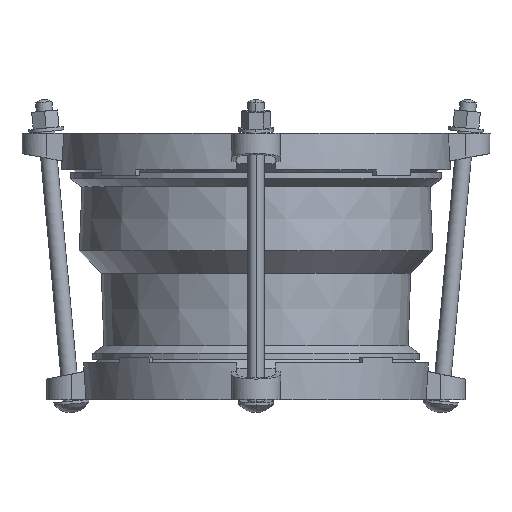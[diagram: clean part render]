
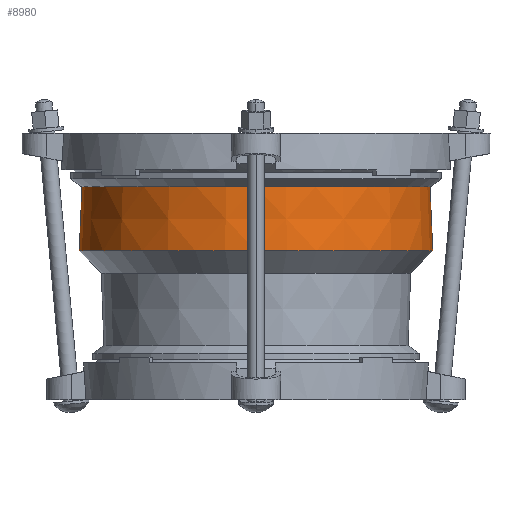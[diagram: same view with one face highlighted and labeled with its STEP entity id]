
A CAD part, left-side view. The second image highlights one B-rep face of the part: STEP entity #8980.
In plain terms, the highlighted conical face has half-angle 2.442 degrees and reference radius 128.351 mm.
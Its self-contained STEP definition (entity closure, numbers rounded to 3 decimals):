
#8575=CARTESIAN_POINT('',(0.,0.,-39.381));
#8576=DIRECTION('',(0.,0.,1.));
#8577=DIRECTION('',(0.,1.,0.));
#8578=AXIS2_PLACEMENT_3D('',#8575,#8576,#8577);
#8580=CARTESIAN_POINT('',(0.,0.,-86.272));
#8581=DIRECTION('',(0.,0.,1.));
#8582=DIRECTION('',(0.,1.,0.));
#8583=AXIS2_PLACEMENT_3D('',#8580,#8581,#8582);
#8585=DIRECTION('',(0.,-0.043,0.999));
#8586=VECTOR('',#8585,46.933);
#8587=CARTESIAN_POINT('',(0.,129.351,-86.272));
#8588=LINE('',#8587,#8586);
#8594=DIRECTION('',(0.,0.043,0.999));
#8595=VECTOR('',#8594,46.933);
#8596=CARTESIAN_POINT('',(0.,-129.351,
-86.272));
#8597=LINE('',#8596,#8595);
#8658=CARTESIAN_POINT('',(0.,129.351,-86.272));
#8659=VERTEX_POINT('',#8658);
#8660=CARTESIAN_POINT('',(0.,127.351,-39.381));
#8661=VERTEX_POINT('',#8660);
#8686=CARTESIAN_POINT('',(0.,-129.351,
-86.272));
#8687=VERTEX_POINT('',#8686);
#8688=CARTESIAN_POINT('',(0.,-127.351,
-39.381));
#8689=VERTEX_POINT('',#8688);
#8966=CARTESIAN_POINT('',(0.,0.,-62.826));
#8967=DIRECTION('',(0.,0.,-1.));
#8968=DIRECTION('',(0.,-1.,0.));
#8969=AXIS2_PLACEMENT_3D('',#8966,#8967,#8968);
#8970=CONICAL_SURFACE('',#8969,128.351,2.442);
#8972=ORIENTED_EDGE('',*,*,#8971,.T.);
#8973=ORIENTED_EDGE('',*,*,#8961,.T.);
#8975=ORIENTED_EDGE('',*,*,#8974,.F.);
#8977=ORIENTED_EDGE('',*,*,#8976,.F.);
#8978=EDGE_LOOP('',(#8972,#8973,#8975,#8977));
#8979=FACE_OUTER_BOUND('',#8978,.F.);
#8980=ADVANCED_FACE('',(#8979),#8970,.T.);
#8579=CIRCLE('',#8578,127.351);
#8584=CIRCLE('',#8583,129.351);
#8961=EDGE_CURVE('',#8661,#8689,#8579,.T.);
#8971=EDGE_CURVE('',#8659,#8661,#8588,.T.);
#8974=EDGE_CURVE('',#8687,#8689,#8597,.T.);
#8976=EDGE_CURVE('',#8659,#8687,#8584,.T.);
